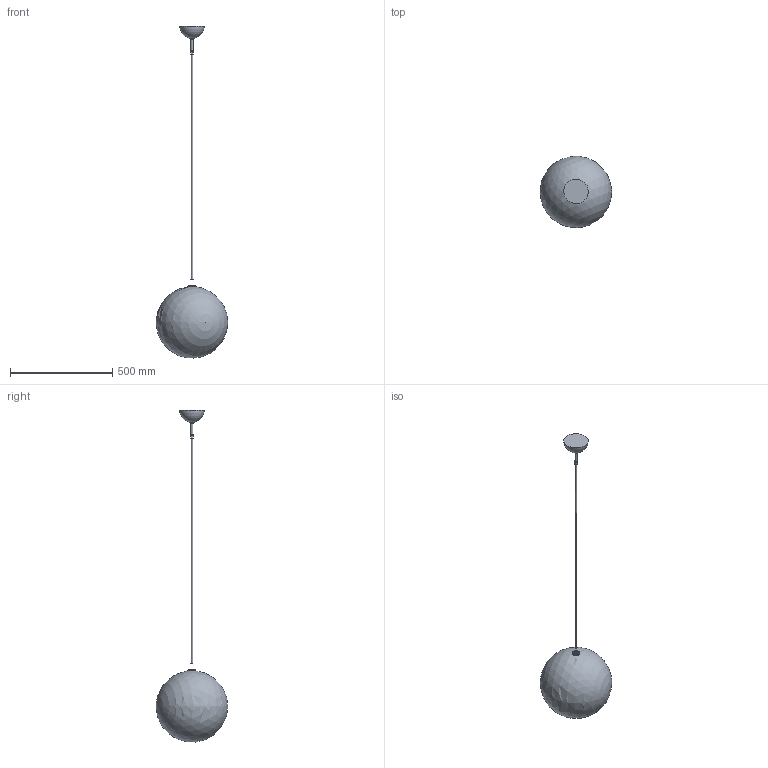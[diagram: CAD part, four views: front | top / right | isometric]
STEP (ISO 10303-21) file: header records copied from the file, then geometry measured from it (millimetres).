
FILE_DESCRIPTION(/* description */ (''),/* implementation_level */ '2;1');
FILE_NAME(/* name */ 'T:\B078 Glass Globe Pendant 350\Pliki bryłowe handlowe\B078 Glass Globe 350 3D files_na stronę\B078 Glass Globe 350.stp',/* time_stamp */ '2022-02-02T12:47:34+01:00',/* author */ ('Mariusz Awariusz'),/* organization */ (''),/* preprocessor_version */ 'ST-DEVELOPER v18.1',/* originating_system */ 'Autodesk Inventor 2022',/* authorisation */ '');
FILE_SCHEMA (('AUTOMOTIVE_DESIGN { 1 0 10303 214 3 1 1 }'));
Length unit declared in the file: millimetre
Products named in the file (1): Glass Globe Pendant 350 CE v3_na potrzeby plików 3D_2_jako część_
korpusy bryłowe
Bounding box: 349.82 x 349.06 x 1623.12 mm (x, y, z)
Volume: 1282263.4 mm3; surface area: 831600.2 mm2
Topology: 15 solids, 15 shells, 102 faces, 177 edges, 110 vertices
Faces by surface type: plane 39, cylinder 29, cone 26, torus 4, sphere 3, bspline 1
Full cylindrical faces by diameter (mm): 2.693 x3, 3 x3, 4 x2, 5.5 x3, 7 x1, 8.6 x2, 10 x3, 11 x1, 12.6 x1, 13 x3, 13.3 x1, 14 x1, 18 x1, 19.8 x1, 20 x1, 33 x1, 35 x1
Entity records: 2486 total; most frequent: DIRECTION 481, CARTESIAN_POINT 420, ORIENTED_EDGE 346, AXIS2_PLACEMENT_3D 210, EDGE_CURVE 173, EDGE_LOOP 113, VERTEX_POINT 110, CIRCLE 108
